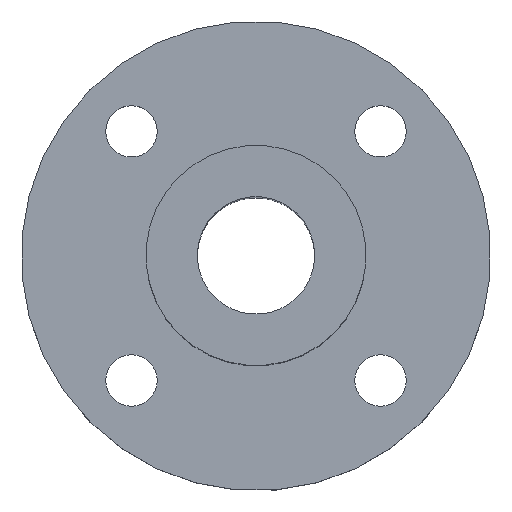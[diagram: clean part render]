
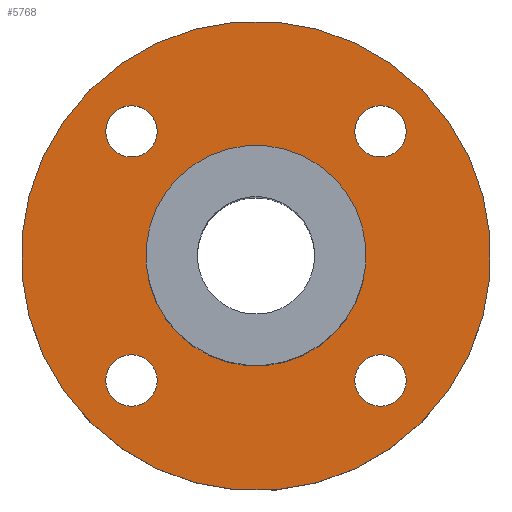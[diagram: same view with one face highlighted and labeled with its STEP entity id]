
A CAD part, top view. The second image highlights one B-rep face of the part: STEP entity #5768.
In plain terms, the highlighted planar face has unit normal (0, 0, 1).
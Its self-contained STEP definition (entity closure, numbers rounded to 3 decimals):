
#114=CIRCLE('',#6132,7.5);
#118=CIRCLE('',#6140,16.);
#119=CIRCLE('',#6142,1.75);
#120=CIRCLE('',#6143,1.75);
#121=CIRCLE('',#6144,1.75);
#122=CIRCLE('',#6145,1.75);
#530=ORIENTED_EDGE('',*,*,#2186,.F.);
#531=ORIENTED_EDGE('',*,*,#2187,.F.);
#532=ORIENTED_EDGE('',*,*,#2188,.F.);
#533=ORIENTED_EDGE('',*,*,#2189,.F.);
#534=ORIENTED_EDGE('',*,*,#2181,.T.);
#535=ORIENTED_EDGE('',*,*,#2185,.T.);
#2181=EDGE_CURVE('',#3012,#3012,#114,.F.);
#2185=EDGE_CURVE('',#3016,#3016,#118,.T.);
#2186=EDGE_CURVE('',#3017,#3017,#119,.T.);
#2187=EDGE_CURVE('',#3018,#3018,#120,.T.);
#2188=EDGE_CURVE('',#3019,#3019,#121,.T.);
#2189=EDGE_CURVE('',#3020,#3020,#122,.T.);
#3012=VERTEX_POINT('',#9070);
#3016=VERTEX_POINT('',#9082);
#3017=VERTEX_POINT('',#9085);
#3018=VERTEX_POINT('',#9087);
#3019=VERTEX_POINT('',#9089);
#3020=VERTEX_POINT('',#9091);
#4726=EDGE_LOOP('',(#530));
#4727=EDGE_LOOP('',(#531));
#4728=EDGE_LOOP('',(#532));
#4729=EDGE_LOOP('',(#533));
#4730=EDGE_LOOP('',(#534));
#4731=EDGE_LOOP('',(#535));
#5143=FACE_BOUND('',#4726,.T.);
#5144=FACE_BOUND('',#4727,.T.);
#5145=FACE_BOUND('',#4728,.T.);
#5146=FACE_BOUND('',#4729,.T.);
#5147=FACE_BOUND('',#4730,.T.);
#5148=FACE_BOUND('',#4731,.T.);
#5503=PLANE('',#6141);
#5768=ADVANCED_FACE('',(#5143,#5144,#5145,#5146,#5147,#5148),#5503,.T.);
#6132=AXIS2_PLACEMENT_3D('',#9069,#6661,#6662);
#6140=AXIS2_PLACEMENT_3D('',#9081,#6677,#6678);
#6141=AXIS2_PLACEMENT_3D('',#9083,#6679,#6680);
#6142=AXIS2_PLACEMENT_3D('',#9084,#6681,#6682);
#6143=AXIS2_PLACEMENT_3D('',#9086,#6683,#6684);
#6144=AXIS2_PLACEMENT_3D('',#9088,#6685,#6686);
#6145=AXIS2_PLACEMENT_3D('',#9090,#6687,#6688);
#6661=DIRECTION('',(0.,0.,1.));
#6662=DIRECTION('',(0.707,-0.707,0.));
#6677=DIRECTION('',(0.,0.,1.));
#6678=DIRECTION('',(0.707,-0.707,0.));
#6679=DIRECTION('',(0.,0.,1.));
#6680=DIRECTION('',(0.707,-0.707,0.));
#6681=DIRECTION('',(0.,0.,1.));
#6682=DIRECTION('',(0.707,-0.707,0.));
#6683=DIRECTION('',(0.,0.,1.));
#6684=DIRECTION('',(0.707,-0.707,0.));
#6685=DIRECTION('',(0.,0.,1.));
#6686=DIRECTION('',(0.707,-0.707,0.));
#6687=DIRECTION('',(0.,0.,1.));
#6688=DIRECTION('',(0.707,-0.707,0.));
#9069=CARTESIAN_POINT('',(0.,0.,0.));
#9070=CARTESIAN_POINT('',(5.303,-5.303,0.));
#9081=CARTESIAN_POINT('',(0.,0.,0.));
#9082=CARTESIAN_POINT('',(11.314,-11.314,0.));
#9083=CARTESIAN_POINT('',(0.,0.,0.));
#9084=CARTESIAN_POINT('',(8.485,8.485,0.));
#9085=CARTESIAN_POINT('',(9.723,7.248,0.));
#9086=CARTESIAN_POINT('',(-8.485,8.485,0.));
#9087=CARTESIAN_POINT('',(-7.248,7.248,0.));
#9088=CARTESIAN_POINT('',(-8.485,-8.485,0.));
#9089=CARTESIAN_POINT('',(-7.248,-9.723,0.));
#9090=CARTESIAN_POINT('',(8.485,-8.485,0.));
#9091=CARTESIAN_POINT('',(9.723,-9.723,0.));
